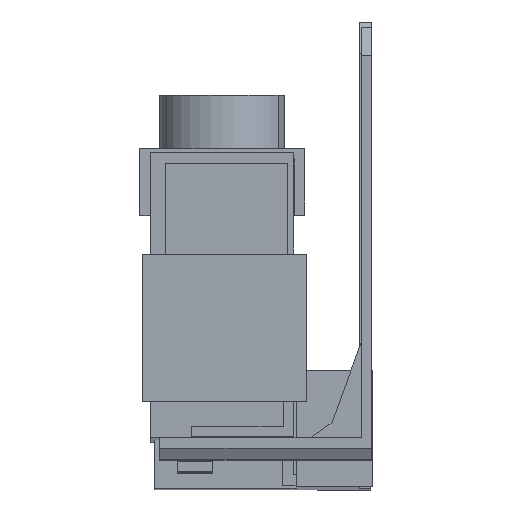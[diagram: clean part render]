
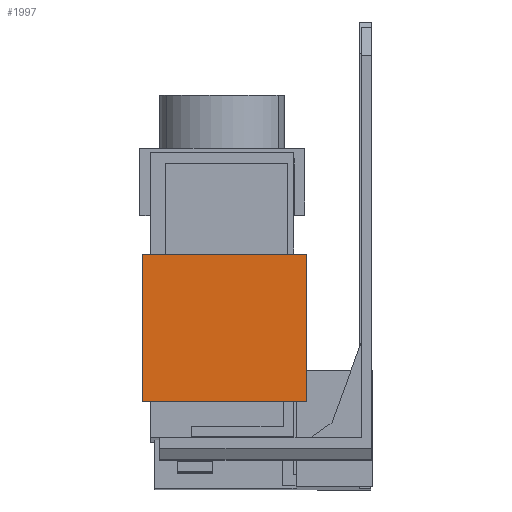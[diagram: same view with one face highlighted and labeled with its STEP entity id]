
A CAD part, front view. The second image highlights one B-rep face of the part: STEP entity #1997.
In plain terms, the highlighted planar face has unit normal (0, -1, 0.003).
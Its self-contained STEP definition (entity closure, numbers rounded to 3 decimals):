
#41 = EDGE_CURVE ( 'NONE', #5373, #5371, #1762, .T. ) ;
#66 = EDGE_CURVE ( 'NONE', #5373, #5372, #1810, .T. ) ;
#86 = EDGE_CURVE ( 'NONE', #5371, #5374, #1840, .T. ) ;
#169 = EDGE_CURVE ( 'NONE', #5372, #5374, #3259, .T. ) ;
#1196 = ORIENTED_EDGE ( 'NONE', *, *, #169, .T. ) ;
#1197 = ORIENTED_EDGE ( 'NONE', *, *, #86, .F. ) ;
#1198 = ORIENTED_EDGE ( 'NONE', *, *, #41, .F. ) ;
#1199 = ORIENTED_EDGE ( 'NONE', *, *, #66, .T. ) ;
#1652 = EDGE_LOOP ( 'NONE', ( #1196, #1197, #1198, #1199 ) ) ;
#1762 = LINE ( 'NONE', #2042, #1773 ) ;
#1773 = VECTOR ( 'NONE', #2045, 1000. ) ;
#1810 = LINE ( 'NONE', #2092, #1819 ) ;
#1819 = VECTOR ( 'NONE', #2095, 1000. ) ;
#1840 = LINE ( 'NONE', #2132, #1854 ) ;
#1854 = VECTOR ( 'NONE', #2135, 1000. ) ;
#1997 = ADVANCED_FACE ( 'NONE', ( #4057 ), #4493, .T. ) ;
#2042 = CARTESIAN_POINT ( 'NONE',  ( -9.3, -31.509, -40.315 ) ) ;
#2045 = DIRECTION ( 'NONE',  ( -1., 0., 0. ) ) ;
#2092 = CARTESIAN_POINT ( 'NONE',  ( -9.3, -31.509, -40.315 ) ) ;
#2095 = DIRECTION ( 'NONE',  ( 0., 0.003, 1. ) ) ;
#2132 = CARTESIAN_POINT ( 'NONE',  ( -32.7, -31.509, -40.315 ) ) ;
#2135 = DIRECTION ( 'NONE',  ( 0., 0.003, 1. ) ) ;
#2302 = CARTESIAN_POINT ( 'NONE',  ( -9.3, -31.452, -19.316 ) ) ;
#2307 = DIRECTION ( 'NONE',  ( -1., 0., 0. ) ) ;
#3259 = LINE ( 'NONE', #2302, #3266 ) ;
#3266 = VECTOR ( 'NONE', #2307, 1000. ) ;
#4057 = FACE_OUTER_BOUND ( 'NONE', #1652, .T. ) ;
#4493 = PLANE ( 'NONE',  #5583 ) ;
#4496 = CARTESIAN_POINT ( 'NONE',  ( -9.3, -31.509, -40.315 ) ) ;
#4502 = DIRECTION ( 'NONE',  ( 0., -1., 0.003 ) ) ;
#4503 = DIRECTION ( 'NONE',  ( 1., 0., 0. ) ) ;
#4696 = CARTESIAN_POINT ( 'NONE',  ( -32.7, -31.509, -40.315 ) ) ;
#4697 = CARTESIAN_POINT ( 'NONE',  ( -9.3, -31.452, -19.316 ) ) ;
#4698 = CARTESIAN_POINT ( 'NONE',  ( -9.3, -31.509, -40.315 ) ) ;
#4699 = CARTESIAN_POINT ( 'NONE',  ( -32.7, -31.452, -19.316 ) ) ;
#5371 = VERTEX_POINT ( 'NONE', #4696 ) ;
#5372 = VERTEX_POINT ( 'NONE', #4697 ) ;
#5373 = VERTEX_POINT ( 'NONE', #4698 ) ;
#5374 = VERTEX_POINT ( 'NONE', #4699 ) ;
#5583 = AXIS2_PLACEMENT_3D ( 'NONE', #4496, #4502, #4503 ) ;
